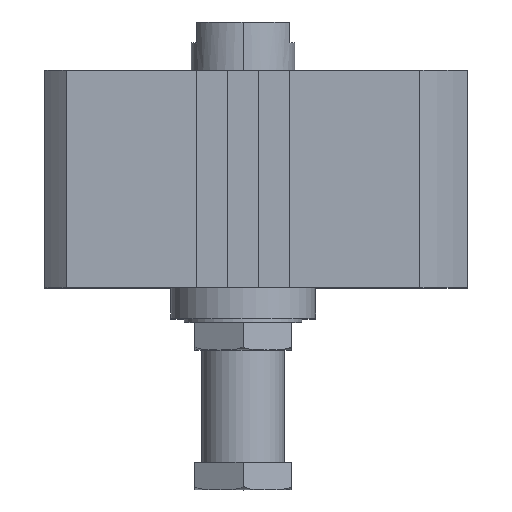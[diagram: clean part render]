
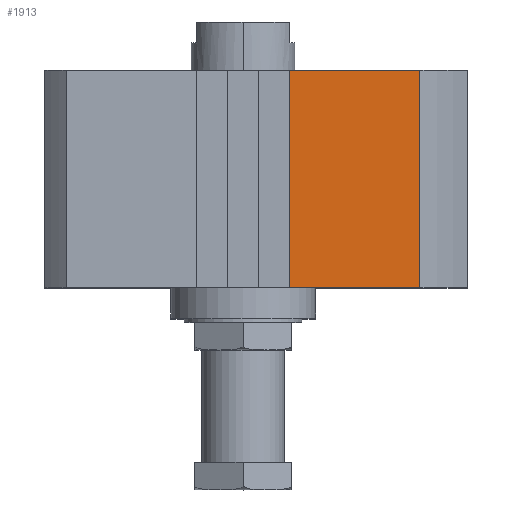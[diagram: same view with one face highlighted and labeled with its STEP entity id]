
A CAD part, top view. The second image highlights one B-rep face of the part: STEP entity #1913.
In plain terms, the highlighted planar face has unit normal (0, 0, 1).
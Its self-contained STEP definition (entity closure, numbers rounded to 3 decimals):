
#166 = AXIS2_PLACEMENT_3D ( 'NONE', #3892, #4266, #3587 ) ;
#177 = DIRECTION ( 'NONE',  ( 1., 0., 0. ) ) ;
#183 = ORIENTED_EDGE ( 'NONE', *, *, #3714, .F. ) ;
#538 = EDGE_LOOP ( 'NONE', ( #183, #4668, #2655, #3639 ) ) ;
#631 = CARTESIAN_POINT ( 'NONE',  ( 13.5, 0., 57.5 ) ) ;
#665 = VERTEX_POINT ( 'NONE', #2043 ) ;
#886 = CARTESIAN_POINT ( 'NONE',  ( 0., 0., 57.5 ) ) ;
#1113 = CARTESIAN_POINT ( 'NONE',  ( 51.213, 0., 57.5 ) ) ;
#1400 = LINE ( 'NONE', #1463, #2558 ) ;
#1463 = CARTESIAN_POINT ( 'NONE',  ( 51.213, -63., 57.5 ) ) ;
#1578 = LINE ( 'NONE', #3869, #4406 ) ;
#1642 = EDGE_CURVE ( 'NONE', #665, #3282, #3213, .T. ) ;
#1687 = DIRECTION ( 'NONE',  ( 1., 0., 0. ) ) ;
#1691 = VECTOR ( 'NONE', #1687, 1000. ) ;
#1913 = ADVANCED_FACE ( 'NONE', ( #4420 ), #3204, .T. ) ;
#1918 = LINE ( 'NONE', #886, #1691 ) ;
#2043 = CARTESIAN_POINT ( 'NONE',  ( 13.5, -63., 57.5 ) ) ;
#2265 = VERTEX_POINT ( 'NONE', #3120 ) ;
#2558 = VECTOR ( 'NONE', #4047, 1000. ) ;
#2655 = ORIENTED_EDGE ( 'NONE', *, *, #3622, .T. ) ;
#2775 = EDGE_CURVE ( 'NONE', #2265, #2877, #1400, .T. ) ;
#2877 = VERTEX_POINT ( 'NONE', #1113 ) ;
#3120 = CARTESIAN_POINT ( 'NONE',  ( 51.213, -63., 57.5 ) ) ;
#3204 = PLANE ( 'NONE',  #166 ) ;
#3213 = LINE ( 'NONE', #4763, #3727 ) ;
#3282 = VERTEX_POINT ( 'NONE', #631 ) ;
#3587 = DIRECTION ( 'NONE',  ( 1., 0., 0. ) ) ;
#3611 = DIRECTION ( 'NONE',  ( 0., 1., 0. ) ) ;
#3622 = EDGE_CURVE ( 'NONE', #665, #2265, #1578, .T. ) ;
#3639 = ORIENTED_EDGE ( 'NONE', *, *, #2775, .T. ) ;
#3714 = EDGE_CURVE ( 'NONE', #3282, #2877, #1918, .T. ) ;
#3727 = VECTOR ( 'NONE', #3611, 1000. ) ;
#3869 = CARTESIAN_POINT ( 'NONE',  ( 0., -63., 57.5 ) ) ;
#3892 = CARTESIAN_POINT ( 'NONE',  ( 0., -63., 57.5 ) ) ;
#4047 = DIRECTION ( 'NONE',  ( 0., 1., 0. ) ) ;
#4266 = DIRECTION ( 'NONE',  ( 0., 0., 1. ) ) ;
#4406 = VECTOR ( 'NONE', #177, 1000. ) ;
#4420 = FACE_OUTER_BOUND ( 'NONE', #538, .T. ) ;
#4668 = ORIENTED_EDGE ( 'NONE', *, *, #1642, .F. ) ;
#4763 = CARTESIAN_POINT ( 'NONE',  ( 13.5, -63., 57.5 ) ) ;
